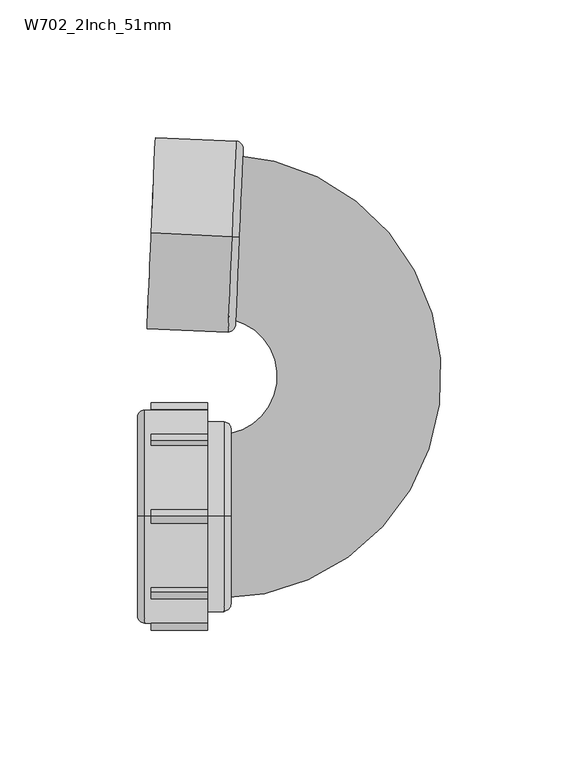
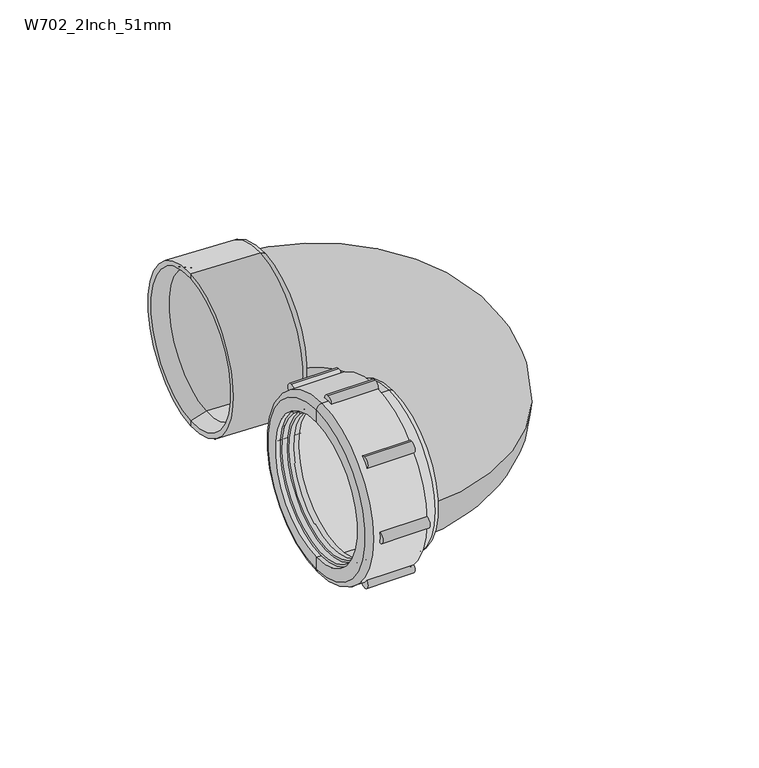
"""IFC4 building model written with IfcOpenShell, lengths in millimetres: pipe fitting geometry, Durapipe_PipeFitting_VulcatheneMechanical_UBend_W70 : W702_2Inch_51mm."""

from ifc_helpers import new_model, si_unit, point, frame, frame_2d, origin, place, context, project, spatial, polyline, circle_curve, ellipse_curve, trimmed, segment, composite_curve, outline, extrude, source, transform, mapped, element, save
from ifc_brep_helpers import plane_surface, cylinder_surface, revolved_surface, advanced_brep


def w702_2inch_51mm_fe70e554(model_context):
    return source(origin(), model_context, "Body", "SolidModel", [
        advanced_brep(
        [(-44.9837216, 101.6381441, -34.8), (-44.9837216, 101.6381441, 34.8), (-42.486101, 101.5290956, 32.3), (-42.486101, 101.5290956, -32.3), (-74.4556441, 102.924916, -34.8), (-74.4556441, 102.924916, 34.8), (-74.4556441, 102.924916, -32.65), (-74.4556441, 102.924916, 32.65), (-48.5802952, 101.7951739, -30.25), (-48.5802952, 101.7951739, 30.25), (-67.762021, 102.6326661, 30.25), (-67.762021, 102.6326661, -30.25), (-47.5812469, 101.7515545, -29.25), (-47.5812469, 101.7515545, 29.25), (-47.5812469, 101.7515545, 0.0), (-42.486101, 101.5290956, 0.0)],
        [
            (0, 1, circle_curve(frame((-44.9837216, 101.6381441, 0.0), z_axis=(0.9990482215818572, -0.043619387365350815, 0.0), x_axis=(0.0, 0.0, 1.0)), 34.8)),
            (1, 2, circle_curve(frame((-44.9837216, 101.6381441, 32.3), z_axis=(0.04361938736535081, 0.999048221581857, 0.0), x_axis=(0.0, 0.0, 1.0)), 2.5)),
            (2, 3, circle_curve(frame((-42.486101, 101.5290956, 0.0), z_axis=(-0.9990482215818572, 0.043619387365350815, 0.0), x_axis=(0.0, 0.0, 1.0)), 32.3)),
            (3, 0, circle_curve(frame((-44.9837216, 101.6381441, -32.3), z_axis=(0.04361938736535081, 0.999048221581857, 0.0), x_axis=(0.0, 0.0, -1.0)), 2.5)),
            (1, 0, circle_curve(frame((-44.9837216, 101.6381441, 0.0), z_axis=(0.9990482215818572, -0.043619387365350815, 0.0), x_axis=(0.0, 0.0, 1.0)), 34.8)),
            (3, 2, circle_curve(frame((-42.486101, 101.5290956, 0.0), z_axis=(-0.9990482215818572, 0.043619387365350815, 0.0), x_axis=(0.0, 0.0, 1.0)), 32.3)),
            (4, 5, circle_curve(frame((-74.4556441, 102.924916, 0.0), z_axis=(0.9990482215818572, -0.043619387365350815, 0.0), x_axis=(0.0, 0.0, 1.0)), 34.8)),
            (5, 1),
            (0, 4),
            (5, 4, circle_curve(frame((-74.4556441, 102.924916, 0.0), z_axis=(0.9990482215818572, -0.043619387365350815, 0.0), x_axis=(0.0, 0.0, 1.0)), 34.8)),
            (6, 7, circle_curve(frame((-74.4556441, 102.924916, 0.0), z_axis=(0.9990482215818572, -0.043619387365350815, 0.0), x_axis=(0.0, 0.0, 1.0)), 32.65)),
            (7, 5),
            (4, 6),
            (7, 6, circle_curve(frame((-74.4556441, 102.924916, 0.0), z_axis=(0.9990482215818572, -0.043619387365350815, 0.0), x_axis=(0.0, 0.0, 1.0)), 32.65)),
            (8, 9, circle_curve(frame((-48.5802952, 101.7951739, 0.0), z_axis=(0.9990482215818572, -0.043619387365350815, 0.0), x_axis=(0.0, 0.0, 1.0)), 30.25)),
            (9, 10),
            (10, 11, circle_curve(frame((-67.762021, 102.6326661, 0.0), z_axis=(-0.9990482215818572, 0.043619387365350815, 0.0), x_axis=(0.0, 0.0, 1.0)), 30.25)),
            (11, 8),
            (9, 8, circle_curve(frame((-48.5802952, 101.7951739, 0.0), z_axis=(0.9990482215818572, -0.043619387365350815, 0.0), x_axis=(0.0, 0.0, 1.0)), 30.25)),
            (11, 10, circle_curve(frame((-67.762021, 102.6326661, 0.0), z_axis=(-0.9990482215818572, 0.043619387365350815, 0.0), x_axis=(0.0, 0.0, 1.0)), 30.25)),
            (12, 13, circle_curve(frame((-47.5812469, 101.7515545, 0.0), z_axis=(0.9990482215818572, -0.043619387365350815, 0.0), x_axis=(0.0, 0.0, 1.0)), 29.25)),
            (13, 9, circle_curve(frame((-48.5802952, 101.7951739, 29.25), z_axis=(-0.04361938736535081, -0.999048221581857, 0.0), x_axis=(0.0, 0.0, 1.0)), 1.0)),
            (8, 12, circle_curve(frame((-48.5802952, 101.7951739, -29.25), z_axis=(-0.04361938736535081, -0.999048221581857, 0.0), x_axis=(0.0, 0.0, -1.0)), 1.0)),
            (13, 12, circle_curve(frame((-47.5812469, 101.7515545, 0.0), z_axis=(0.9990482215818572, -0.043619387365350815, 0.0), x_axis=(0.0, 0.0, 1.0)), 29.25)),
            (14, 13),
            (12, 14),
            (2, 15),
            (15, 3),
            (10, 7),
            (6, 11),
        ],
        [
            revolved_surface(trimmed(ellipse_curve(frame((-44.9837216, 101.6381441, 32.3), z_axis=(-0.04361938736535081, -0.999048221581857, 0.0), x_axis=(0.0, 0.0, 1.0)), 2.5, 2.5), [point((-42.486101, 101.5290956, 32.3))], [point((-44.9837216, 101.6381441, 34.8))], True, "CARTESIAN"), (-86.1574672, 103.4358286, 0.0), (-0.999048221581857, 0.04361938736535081, 0.0)),
            cylinder_surface(frame((-86.1574672, 103.4358286, 0.0), z_axis=(-0.999048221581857, 0.04361938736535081, 0.0), x_axis=(0.0, 0.0, 1.0)), 34.8),
            plane_surface(frame((-74.4556441, 102.924916, 0.0), z_axis=(-0.9990482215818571, 0.043619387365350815, 0.0), x_axis=(0.0, 0.0, 1.0))),
            revolved_surface(polyline([(-67.76202100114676, 102.63266607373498, 30.25), (-48.58029520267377, 101.79517383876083, 30.25)]), (-86.1574672, 103.4358286, 0.0), (-0.999048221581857, 0.04361938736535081, 0.0)),
            revolved_surface(trimmed(ellipse_curve(frame((-48.5802952, 101.7951739, 29.25), z_axis=(0.04361938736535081, 0.999048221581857, 0.0), x_axis=(0.0, 0.0, 1.0)), 1.0, 1.0), [point((-48.5802952, 101.7951739, 30.25))], [point((-47.5812469, 101.7515545, 29.25))], True, "CARTESIAN"), (-86.1574672, 103.4358286, 0.0), (-0.999048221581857, 0.04361938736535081, 0.0)),
            plane_surface(frame((-47.5812469, 101.7515545, 0.0), z_axis=(-0.9990482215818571, 0.043619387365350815, 0.0), x_axis=(0.0, 0.0, 1.0))),
            plane_surface(frame((-42.486101, 101.5290956, 0.0), z_axis=(0.9990482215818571, -0.043619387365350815, 0.0), x_axis=(0.0, 0.0, 1.0))),
            revolved_surface(polyline([(-74.4556441, 102.924916, 32.65), (-67.762021, 102.6326661, 30.25)]), (-86.1574672, 103.4358286, 0.0), (-0.999048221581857, 0.04361938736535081, 0.0)),
        ],
        [
            (0, [[1, 2, 3, 4]]),
            (0, [[5, -4, 6, -2]]),
            (1, [[7, 8, -1, 9]]),
            (1, [[10, -9, -5, -8]]),
            (2, [[11, 12, -7, 13]]),
            (2, [[14, -13, -10, -12]]),
            (3, [[15, 16, 17, 18]]),
            (3, [[19, -18, 20, -16]]),
            (4, [[21, 22, -15, 23]]),
            (4, [[24, -23, -19, -22]]),
            (5, [[25, -21, 26]]),
            (5, [[-26, -24, -25]]),
            (6, [[-3, 27, 28]]),
            (6, [[-6, -28, -27]]),
            (7, [[-17, 29, -11, 30]]),
            (7, [[-20, -30, -14, -29]]),
        ],
    ),
        advanced_brep(
        [(-77.1014738, -22.839549, -22.839549), (-77.1014738, 22.839549, 22.839549), (-77.1014738, 21.2839141, 21.2839141), (-77.1014738, -21.2839141, -21.2839141), (-71.5014738, -22.3445743, -22.3445743), (-71.5014738, 22.3445743, 22.3445743), (-70.1014738, -21.9203102, -21.9203102), (-70.1014738, 21.9203102, 21.9203102), (-71.5014738, 21.9203102, 21.9203102), (-71.5014738, -21.9203102, -21.9203102), (-70.1014738, -20.9303607, -20.9303607), (-70.1014738, 20.9303607, 20.9303607), (-72.4014738, -20.9303607, -20.9303607), (-72.4014738, 20.9303607, 20.9303607), (-72.4014738, -20.647518, -20.647518), (-72.4014738, 20.647518, 20.647518), (-74.6014738, -21.2839141, -21.2839141), (-74.6014738, 21.2839141, 21.2839141), (-74.6014738, 20.647518, 20.647518), (-74.6014738, -20.647518, -20.647518)],
        [
            (0, 1, circle_curve(frame((-77.1014738, 0.0, 0.0), z_axis=(-1.0, 0.0, 0.0), x_axis=(0.0, 0.7071067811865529, 0.7071067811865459)), 32.3)),
            (1, 2),
            (2, 3, circle_curve(frame((-77.1014738, 0.0, 0.0), z_axis=(1.0, 0.0, 0.0), x_axis=(0.0, 0.7071067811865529, 0.7071067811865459)), 30.1)),
            (3, 0),
            (1, 0, circle_curve(frame((-77.1014738, 0.0, 0.0), z_axis=(-1.0, 0.0, 0.0), x_axis=(0.0, 0.7071067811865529, 0.7071067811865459)), 32.3)),
            (3, 2, circle_curve(frame((-77.1014738, 0.0, 0.0), z_axis=(1.0, 0.0, 0.0), x_axis=(0.0, 0.7071067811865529, 0.7071067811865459)), 30.1)),
            (4, 5, circle_curve(frame((-71.5014738, 0.0, 0.0), z_axis=(-1.0, 0.0, 0.0), x_axis=(0.0, 0.7071067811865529, 0.7071067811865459)), 31.6)),
            (5, 1),
            (0, 4),
            (5, 4, circle_curve(frame((-71.5014738, 0.0, 0.0), z_axis=(-1.0, 0.0, 0.0), x_axis=(0.0, 0.7071067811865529, 0.7071067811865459)), 31.6)),
            (6, 7, circle_curve(frame((-70.1014738, 0.0, 0.0), z_axis=(-1.0, 0.0, 0.0), x_axis=(0.0, 0.7071067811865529, 0.7071067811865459)), 31.0)),
            (7, 8),
            (8, 9, circle_curve(frame((-71.5014738, 0.0, 0.0), z_axis=(1.0, 0.0, 0.0), x_axis=(0.0, 0.7071067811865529, 0.7071067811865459)), 31.0)),
            (9, 6),
            (7, 6, circle_curve(frame((-70.1014738, 0.0, 0.0), z_axis=(-1.0, 0.0, 0.0), x_axis=(0.0, 0.7071067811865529, 0.7071067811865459)), 31.0)),
            (9, 8, circle_curve(frame((-71.5014738, 0.0, 0.0), z_axis=(1.0, 0.0, 0.0), x_axis=(0.0, 0.7071067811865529, 0.7071067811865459)), 31.0)),
            (6, 10),
            (10, 11, circle_curve(frame((-70.1014738, 0.0, 0.0), z_axis=(-1.0, 0.0, 0.0), x_axis=(0.0, 0.7071067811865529, 0.7071067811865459)), 29.6)),
            (11, 7),
            (11, 10, circle_curve(frame((-70.1014738, 0.0, 0.0), z_axis=(-1.0, 0.0, 0.0), x_axis=(0.0, 0.7071067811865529, 0.7071067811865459)), 29.6)),
            (10, 12),
            (12, 13, circle_curve(frame((-72.4014738, 0.0, 0.0), z_axis=(-1.0, 0.0, 0.0), x_axis=(0.0, 0.7071067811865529, 0.7071067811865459)), 29.6)),
            (13, 11),
            (13, 12, circle_curve(frame((-72.4014738, 0.0, 0.0), z_axis=(-1.0, 0.0, 0.0), x_axis=(0.0, 0.7071067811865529, 0.7071067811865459)), 29.6)),
            (12, 14),
            (14, 15, circle_curve(frame((-72.4014738, 0.0, 0.0), z_axis=(-1.0, 0.0, 0.0), x_axis=(0.0, 0.7071067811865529, 0.7071067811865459)), 29.2)),
            (15, 13),
            (15, 14, circle_curve(frame((-72.4014738, 0.0, 0.0), z_axis=(-1.0, 0.0, 0.0), x_axis=(0.0, 0.7071067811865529, 0.7071067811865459)), 29.2)),
            (16, 17, circle_curve(frame((-74.6014738, 0.0, 0.0), z_axis=(-1.0, 0.0, 0.0), x_axis=(0.0, 0.7071067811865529, 0.7071067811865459)), 30.1)),
            (17, 18),
            (18, 19, circle_curve(frame((-74.6014738, 0.0, 0.0), z_axis=(1.0, 0.0, 0.0), x_axis=(0.0, 0.7071067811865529, 0.7071067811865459)), 29.2)),
            (19, 16),
            (17, 16, circle_curve(frame((-74.6014738, 0.0, 0.0), z_axis=(-1.0, 0.0, 0.0), x_axis=(0.0, 0.7071067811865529, 0.7071067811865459)), 30.1)),
            (19, 18, circle_curve(frame((-74.6014738, 0.0, 0.0), z_axis=(1.0, 0.0, 0.0), x_axis=(0.0, 0.7071067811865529, 0.7071067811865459)), 29.2)),
            (2, 17),
            (16, 3),
            (14, 19),
            (18, 15),
            (4, 9),
            (8, 5),
        ],
        [
            plane_surface(frame((-77.1014738, 0.0, 0.0), z_axis=(-1.0, 0.0, 0.0), x_axis=(0.0, 0.707106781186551, 0.707106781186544))),
            revolved_surface(polyline([(-77.1014738, 22.839549, 22.839549), (-71.5014738, 22.3445743, 22.3445743)]), (-82.1014738, 0.0, 0.0), (1.0000000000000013, 0.0, 0.0)),
            cylinder_surface(frame((-68.030818, 0.0, 0.0), z_axis=(1.0000000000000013, 0.0, 0.0), x_axis=(0.0, 0.7071067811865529, 0.7071067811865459)), 31.0),
            plane_surface(frame((-70.1014738, 0.0, 0.0), z_axis=(1.0, 0.0, 0.0), x_axis=(0.0, 0.707106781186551, 0.707106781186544))),
            revolved_surface(polyline([(-70.10147380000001, 20.930360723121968, 20.93036072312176), (-72.40147380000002, 20.930360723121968, 20.93036072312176)]), (-66.6084828, 0.0, 0.0), (1.0000000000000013, 0.0, 0.0)),
            plane_surface(frame((-72.4014738, 0.0, 0.0), z_axis=(1.0, 0.0, 0.0), x_axis=(0.0, 0.707106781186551, 0.707106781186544))),
            plane_surface(frame((-74.6014738, 0.0, 0.0), z_axis=(-1.0, 0.0, 0.0), x_axis=(0.0, 0.707106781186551, 0.707106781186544))),
            revolved_surface(polyline([(-74.60147379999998, 21.283914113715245, 21.28391411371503), (-77.10147379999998, 21.283914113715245, 21.28391411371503)]), (-82.1014738, 0.0, 0.0), (1.0000000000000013, 0.0, 0.0)),
            revolved_surface(polyline([(-72.40147379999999, 20.647518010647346, 20.64751801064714), (-74.60147379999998, 20.647518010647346, 20.64751801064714)]), (-78.6676662, 0.0, 0.0), (1.0000000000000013, 0.0, 0.0)),
            plane_surface(frame((-71.5014738, 0.0, 0.0), z_axis=(1.0, 0.0, 0.0), x_axis=(0.0, 0.707106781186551, 0.707106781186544))),
        ],
        [
            (0, [[1, 2, 3, 4]]),
            (0, [[-2, 5, -4, 6]]),
            (1, [[7, 8, -1, 9]]),
            (1, [[10, -9, -5, -8]]),
            (2, [[11, 12, 13, 14]]),
            (2, [[-12, 15, -14, 16]]),
            (3, [[-11, 17, 18, 19]]),
            (3, [[-15, -19, 20, -17]]),
            (4, [[21, 22, 23, -18]]),
            (4, [[-21, -20, -23, 24]]),
            (5, [[-22, 25, 26, 27]]),
            (5, [[-24, -27, 28, -25]]),
            (6, [[29, 30, 31, 32]]),
            (6, [[33, -32, 34, -30]]),
            (7, [[-3, 35, -29, 36]]),
            (7, [[-6, -36, -33, -35]]),
            (8, [[37, -31, 38, -26]]),
            (8, [[-37, -28, -38, -34]]),
            (9, [[-7, 39, -13, 40]]),
            (9, [[-10, -40, -16, -39]]),
        ],
    ),
        advanced_brep(
        [(-54.0014738, 0.0, -38.8), (-54.0014738, 0.0, 38.8), (-76.9014738, 0.0, 38.8), (-76.9014738, 0.0, -38.8), (-54.0014738, 0.0, -34.5), (-54.0014738, 0.0, 34.5), (-79.4014738, 0.0, -36.3), (-79.4014738, 0.0, 36.3), (-79.4014738, 0.0, 31.0), (-79.4014738, 0.0, -31.0), (-77.1014738, 0.0, -33.0), (-77.1014738, 0.0, 33.0), (-49.8014738, 0.0, 33.0), (-49.8014738, 0.0, -33.0), (-77.1014738, 0.0, -31.0), (-77.1014738, 0.0, 31.0), (-48.0014738, 0.0, -34.5), (-48.0014738, 0.0, 34.5), (-45.5014738, 0.0, -32.0), (-45.5014738, 0.0, 32.0), (-45.5014738, 0.0, 0.0), (-49.8014738, 0.0, 0.0)],
        [
            (0, 1, circle_curve(frame((-54.0014738, 0.0, 0.0), z_axis=(-1.0, 0.0, 0.0), x_axis=(0.0, 0.0, 1.0000000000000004)), 38.8)),
            (1, 2),
            (2, 3, circle_curve(frame((-76.9014738, 0.0, 0.0), z_axis=(1.0, 0.0, 0.0), x_axis=(0.0, 0.0, 1.0000000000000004)), 38.8)),
            (3, 0),
            (1, 0, circle_curve(frame((-54.0014738, 0.0, 0.0), z_axis=(-1.0, 0.0, 0.0), x_axis=(0.0, 0.0, 1.0000000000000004)), 38.8)),
            (3, 2, circle_curve(frame((-76.9014738, 0.0, 0.0), z_axis=(1.0, 0.0, 0.0), x_axis=(0.0, 0.0, 1.0000000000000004)), 38.8)),
            (4, 5, circle_curve(frame((-54.0014738, 0.0, 0.0), z_axis=(-1.0, 0.0, 0.0), x_axis=(0.0, 0.0, 1.0000000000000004)), 34.5)),
            (5, 1),
            (0, 4),
            (5, 4, circle_curve(frame((-54.0014738, 0.0, 0.0), z_axis=(-1.0, 0.0, 0.0), x_axis=(0.0, 0.0, 1.0000000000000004)), 34.5)),
            (6, 7, circle_curve(frame((-79.4014738, 0.0, 0.0), z_axis=(-1.0, 0.0, 0.0), x_axis=(0.0, 0.0, 1.0000000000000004)), 36.3)),
            (7, 8),
            (8, 9, circle_curve(frame((-79.4014738, 0.0, 0.0), z_axis=(1.0, 0.0, 0.0), x_axis=(0.0, 0.0, 1.0000000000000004)), 31.0)),
            (9, 6),
            (7, 6, circle_curve(frame((-79.4014738, 0.0, 0.0), z_axis=(-1.0, 0.0, 0.0), x_axis=(0.0, 0.0, 1.0000000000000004)), 36.3)),
            (9, 8, circle_curve(frame((-79.4014738, 0.0, 0.0), z_axis=(1.0, 0.0, 0.0), x_axis=(0.0, 0.0, 1.0000000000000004)), 31.0)),
            (2, 7, circle_curve(frame((-76.9014738, 0.0, 36.3), z_axis=(0.0, -1.0000000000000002, 0.0), x_axis=(-1.0000000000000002, 0.0, 0.0)), 2.5)),
            (6, 3, circle_curve(frame((-76.9014738, 0.0, -36.3), z_axis=(0.0, -1.0000000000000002, 0.0), x_axis=(-1.0000000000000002, 0.0, 0.0)), 2.5)),
            (10, 11, circle_curve(frame((-77.1014738, 0.0, 0.0), z_axis=(-1.0, 0.0, 0.0), x_axis=(0.0, 0.0, 1.0000000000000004)), 33.0)),
            (11, 12),
            (12, 13, circle_curve(frame((-49.8014738, 0.0, 0.0), z_axis=(1.0, 0.0, 0.0), x_axis=(0.0, 0.0, 1.0000000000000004)), 33.0)),
            (13, 10),
            (11, 10, circle_curve(frame((-77.1014738, 0.0, 0.0), z_axis=(-1.0, 0.0, 0.0), x_axis=(0.0, 0.0, 1.0000000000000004)), 33.0)),
            (13, 12, circle_curve(frame((-49.8014738, 0.0, 0.0), z_axis=(1.0, 0.0, 0.0), x_axis=(0.0, 0.0, 1.0000000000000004)), 33.0)),
            (14, 15, circle_curve(frame((-77.1014738, 0.0, 0.0), z_axis=(-1.0, 0.0, 0.0), x_axis=(0.0, 0.0, 1.0000000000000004)), 31.0)),
            (15, 11),
            (10, 14),
            (15, 14, circle_curve(frame((-77.1014738, 0.0, 0.0), z_axis=(-1.0, 0.0, 0.0), x_axis=(0.0, 0.0, 1.0000000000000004)), 31.0)),
            (8, 15),
            (14, 9),
            (16, 17, circle_curve(frame((-48.0014738, 0.0, 0.0), z_axis=(-1.0, 0.0, 0.0), x_axis=(0.0, 0.0, 1.0000000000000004)), 34.5)),
            (17, 5),
            (4, 16),
            (17, 16, circle_curve(frame((-48.0014738, 0.0, 0.0), z_axis=(-1.0, 0.0, 0.0), x_axis=(0.0, 0.0, 1.0000000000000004)), 34.5)),
            (18, 19, circle_curve(frame((-45.5014738, 0.0, 0.0), z_axis=(-1.0, 0.0, 0.0), x_axis=(0.0, 0.0, 1.0000000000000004)), 32.0)),
            (19, 17, circle_curve(frame((-48.0014738, 0.0, 32.0), z_axis=(0.0, -1.0000000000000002, 0.0), x_axis=(-1.0000000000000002, 0.0, 0.0)), 2.5)),
            (16, 18, circle_curve(frame((-48.0014738, 0.0, -32.0), z_axis=(0.0, -1.0000000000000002, 0.0), x_axis=(-1.0000000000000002, 0.0, 0.0)), 2.5)),
            (19, 18, circle_curve(frame((-45.5014738, 0.0, 0.0), z_axis=(-1.0, 0.0, 0.0), x_axis=(0.0, 0.0, 1.0000000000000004)), 32.0)),
            (20, 19),
            (18, 20),
            (12, 21),
            (21, 13),
        ],
        [
            cylinder_surface(frame((-1640.2032921, 0.0, 0.0), z_axis=(1.0000000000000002, 0.0, 0.0), x_axis=(0.0, 0.0, 1.0000000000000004)), 38.8),
            plane_surface(frame((-54.0014738, 0.0, 0.0), z_axis=(1.0, 0.0, 0.0), x_axis=(0.0, 0.0, 1.0))),
            plane_surface(frame((-79.4014738, 0.0, 0.0), z_axis=(-1.0, 0.0, 0.0), x_axis=(0.0, 0.0, 1.0))),
            revolved_surface(trimmed(ellipse_curve(frame((-76.9014738, 0.0, 36.3), z_axis=(0.0, 1.0000000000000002, 0.0), x_axis=(-1.0000000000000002, 0.0, 0.0)), 2.5, 2.5), [point((-79.4014738, 0.0, 36.3))], [point((-76.9014738, 0.0, 38.8))], True, "CARTESIAN"), (-1640.2032921, 0.0, 0.0), (1.0000000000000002, 0.0, 0.0)),
            revolved_surface(polyline([(-49.80147379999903, 0.0, 33.000000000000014), (-77.10147379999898, 0.0, 33.000000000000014)]), (-1640.2032921, 0.0, 0.0), (1.0000000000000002, 0.0, 0.0)),
            plane_surface(frame((-77.1014738, 0.0, 0.0), z_axis=(1.0, 0.0, 0.0), x_axis=(0.0, 0.0, 1.0))),
            revolved_surface(polyline([(-77.10147379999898, 0.0, 31.000000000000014), (-79.40147379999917, 0.0, 31.000000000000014)]), (-1640.2032921, 0.0, 0.0), (1.0000000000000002, 0.0, 0.0)),
            cylinder_surface(frame((-1640.2032921, 0.0, 0.0), z_axis=(1.0000000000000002, 0.0, 0.0), x_axis=(0.0, 0.0, 1.0000000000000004)), 34.5),
            revolved_surface(trimmed(ellipse_curve(frame((-48.0014738, 0.0, 32.0), z_axis=(0.0, 1.0000000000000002, 0.0), x_axis=(-1.0000000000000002, 0.0, 0.0)), 2.5, 2.5), [point((-48.0014738, 0.0, 34.5))], [point((-45.5014738, 0.0, 32.0))], True, "CARTESIAN"), (-1640.2032921, 0.0, 0.0), (1.0000000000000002, 0.0, 0.0)),
            plane_surface(frame((-45.5014738, 0.0, 0.0), z_axis=(1.0, 0.0, 0.0), x_axis=(0.0, 0.0, 1.0))),
            plane_surface(frame((-49.8014738, 0.0, 0.0), z_axis=(-1.0, 0.0, 0.0), x_axis=(0.0, 0.0, 1.0))),
        ],
        [
            (0, [[1, 2, 3, 4]]),
            (0, [[5, -4, 6, -2]]),
            (1, [[7, 8, -1, 9]]),
            (1, [[10, -9, -5, -8]]),
            (2, [[11, 12, 13, 14]]),
            (2, [[15, -14, 16, -12]]),
            (3, [[-3, 17, -11, 18]]),
            (3, [[-6, -18, -15, -17]]),
            (4, [[19, 20, 21, 22]]),
            (4, [[23, -22, 24, -20]]),
            (5, [[25, 26, -19, 27]]),
            (5, [[28, -27, -23, -26]]),
            (6, [[-13, 29, -25, 30]]),
            (6, [[-16, -30, -28, -29]]),
            (7, [[31, 32, -7, 33]]),
            (7, [[34, -33, -10, -32]]),
            (8, [[35, 36, -31, 37]]),
            (8, [[38, -37, -34, -36]]),
            (9, [[39, -35, 40]]),
            (9, [[-40, -38, -39]]),
            (10, [[-21, 41, 42]]),
            (10, [[-24, -42, -41]]),
        ],
    ),
        extrude(outline(composite_curve([segment(trimmed(circle_curve(frame_2d((38.8, 0.0)), 2.5), [point((38.8, -2.5))], [point((38.8, 2.5))], False, "CARTESIAN"), True, "CONTINUOUS"), segment(trimmed(circle_curve(frame_2d((38.8, 0.0)), 2.5), [point((38.8, 2.5))], [point((38.8, -2.5))], False, "CARTESIAN"), True, "CONTINUOUS")], self_intersect=False)), frame((-74.4014738, 0.0, 0.0), z_axis=(1.0, 0.0, 0.0), x_axis=(0.0, 1.0, 0.0)), (0.0, 0.0, 1.0), 20.4),
        extrude(outline(composite_curve([segment(trimmed(circle_curve(frame_2d((27.4357431, 27.4357431)), 2.5), [point((27.4357431, 24.9357431))], [point((27.4357431, 29.9357431))], False, "CARTESIAN"), True, "CONTINUOUS"), segment(trimmed(circle_curve(frame_2d((27.4357431, 27.4357431)), 2.5), [point((27.4357431, 29.9357431))], [point((27.4357431, 24.9357431))], False, "CARTESIAN"), True, "CONTINUOUS")], self_intersect=False)), frame((-74.4014738, 0.0, 0.0), z_axis=(1.0, 0.0, 0.0), x_axis=(0.0, 1.0, 0.0)), (0.0, 0.0, 1.0), 20.4),
        extrude(outline(composite_curve([segment(trimmed(circle_curve(frame_2d((0.0, 38.8)), 2.5), [point((0.0, 36.3))], [point((0.0, 41.3))], False, "CARTESIAN"), True, "CONTINUOUS"), segment(trimmed(circle_curve(frame_2d((0.0, 38.8)), 2.5), [point((0.0, 41.3))], [point((0.0, 36.3))], False, "CARTESIAN"), True, "CONTINUOUS")], self_intersect=False)), frame((-74.4014738, 0.0, 0.0), z_axis=(1.0, 0.0, 0.0), x_axis=(0.0, 1.0, 0.0)), (0.0, 0.0, 1.0), 20.4),
        extrude(outline(composite_curve([segment(trimmed(circle_curve(frame_2d((-27.4357431, 27.4357431)), 2.5), [point((-27.4357431, 24.9357431))], [point((-27.4357431, 29.9357431))], False, "CARTESIAN"), True, "CONTINUOUS"), segment(trimmed(circle_curve(frame_2d((-27.4357431, 27.4357431)), 2.5), [point((-27.4357431, 29.9357431))], [point((-27.4357431, 24.9357431))], False, "CARTESIAN"), True, "CONTINUOUS")], self_intersect=False)), frame((-74.4014738, 0.0, 0.0), z_axis=(1.0, 0.0, 0.0), x_axis=(0.0, 1.0, 0.0)), (0.0, 0.0, 1.0), 20.4),
        extrude(outline(composite_curve([segment(trimmed(circle_curve(frame_2d((-38.8, 0.0)), 2.5), [point((-38.8, -2.5))], [point((-38.8, 2.5))], False, "CARTESIAN"), True, "CONTINUOUS"), segment(trimmed(circle_curve(frame_2d((-38.8, 0.0)), 2.5), [point((-38.8, 2.5))], [point((-38.8, -2.5))], False, "CARTESIAN"), True, "CONTINUOUS")], self_intersect=False)), frame((-74.4014738, 0.0, 0.0), z_axis=(1.0, 0.0, 0.0), x_axis=(0.0, 1.0, 0.0)), (0.0, 0.0, 1.0), 20.4),
        extrude(outline(composite_curve([segment(trimmed(circle_curve(frame_2d((-27.4357431, -27.4357431)), 2.5), [point((-27.4357431, -29.9357431))], [point((-27.4357431, -24.9357431))], False, "CARTESIAN"), True, "CONTINUOUS"), segment(trimmed(circle_curve(frame_2d((-27.4357431, -27.4357431)), 2.5), [point((-27.4357431, -24.9357431))], [point((-27.4357431, -29.9357431))], False, "CARTESIAN"), True, "CONTINUOUS")], self_intersect=False)), frame((-74.4014738, 0.0, 0.0), z_axis=(1.0, 0.0, 0.0), x_axis=(0.0, 1.0, 0.0)), (0.0, 0.0, 1.0), 20.4),
        extrude(outline(composite_curve([segment(trimmed(circle_curve(frame_2d((0.0, -38.8)), 2.5), [point((0.0, -41.3))], [point((0.0, -36.3))], False, "CARTESIAN"), True, "CONTINUOUS"), segment(trimmed(circle_curve(frame_2d((0.0, -38.8)), 2.5), [point((0.0, -36.3))], [point((0.0, -41.3))], False, "CARTESIAN"), True, "CONTINUOUS")], self_intersect=False)), frame((-74.4014738, 0.0, 0.0), z_axis=(1.0, 0.0, 0.0), x_axis=(0.0, 1.0, 0.0)), (0.0, 0.0, 1.0), 20.4),
        extrude(outline(composite_curve([segment(trimmed(circle_curve(frame_2d((27.4357431, -27.4357431)), 2.5), [point((27.4357431, -29.9357431))], [point((27.4357431, -24.9357431))], False, "CARTESIAN"), True, "CONTINUOUS"), segment(trimmed(circle_curve(frame_2d((27.4357431, -27.4357431)), 2.5), [point((27.4357431, -24.9357431))], [point((27.4357431, -29.9357431))], False, "CARTESIAN"), True, "CONTINUOUS")], self_intersect=False)), frame((-74.4014738, 0.0, 0.0), z_axis=(1.0, 0.0, 0.0), x_axis=(0.0, 1.0, 0.0)), (0.0, 0.0, 1.0), 20.4),
        advanced_brep(
        [(-49.8014738, -29.75, 0.0), (-49.8014738, 29.75, 0.0), (-46.2835702, 131.4732391, 0.0), (-48.8789237, 72.0298699, 0.0)],
        [
            (0, 1, circle_curve(frame((-49.8014738, 0.0, 0.0), z_axis=(-1.0, 0.0, 0.0), x_axis=(0.0, 1.0, 0.0)), 29.75)),
            (1, 0, circle_curve(frame((-49.8014738, 0.0, 0.0), z_axis=(-1.0, 0.0, 0.0), x_axis=(0.0, 1.0, 0.0)), 29.75)),
            (2, 3, circle_curve(frame((-47.5812469, 101.7515545, 0.0), z_axis=(-0.9990482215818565, 0.0436193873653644, 0.0), x_axis=(-0.0436193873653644, -0.9990482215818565, 0.0)), 29.75)),
            (3, 2, circle_curve(frame((-47.5812469, 101.7515545, 0.0), z_axis=(-0.9990482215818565, 0.0436193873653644, 0.0), x_axis=(-0.0436193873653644, -0.9990482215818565, 0.0)), 29.75)),
            (3, 1, circle_curve(frame((-49.8014738, 50.9, 0.0), z_axis=(0.0, 0.0, -1.0), x_axis=(0.0, -1.0, 0.0)), 21.15)),
            (0, 2, circle_curve(frame((-49.8014738, 50.9, 0.0), z_axis=(0.0, 0.0, 1.0), x_axis=(0.0, -1.0, 0.0)), 80.65)),
        ],
        [
            plane_surface(frame((-49.8014738, 0.0, 0.0), z_axis=(-1.0, 0.0, 0.0), x_axis=(0.0, 0.0, 1.0))),
            plane_surface(frame((-47.5812469, 101.7515545, 0.0), z_axis=(-0.9990482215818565, 0.04361938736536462, 0.0), x_axis=(0.0, 0.0, 1.0))),
            revolved_surface(trimmed(ellipse_curve(frame((-49.8014738, 0.0, 0.0), z_axis=(-1.0, 0.0, 0.0), x_axis=(0.0, 1.0, 0.0)), 29.75, 29.75), [point((-49.8014738, -29.75, 0.0))], [point((-49.8014738, 29.75, 0.0))], True, "CARTESIAN"), (-49.8014738, 50.9, 0.0), (0.0, 0.0, 1.0)),
            revolved_surface(trimmed(ellipse_curve(frame((-49.8014738, 0.0, 0.0), z_axis=(-1.0, 0.0, 0.0), x_axis=(0.0, 1.0, 0.0)), 29.75, 29.75), [point((-49.8014738, 29.75, 0.0))], [point((-49.8014738, -29.75, 0.0))], True, "CARTESIAN"), (-49.8014738, 50.9, 0.0), (0.0, 0.0, 1.0)),
        ],
        [
            (0, [[1, 2]]),
            (1, [[3, 4]]),
            (2, [[5, -1, 6, -4]]),
            (3, [[-6, -2, -5, -3]]),
        ],
    ),
    ])


if __name__ == "__main__":
    model = new_model("IFC4")
    model_context = context("Model", 3, world=origin())
    ifc_project = project(units=[si_unit("LENGTHUNIT", "METRE", prefix="MILLI")], contexts=[model_context])
    site = spatial("IfcSite", under=ifc_project)
    building = spatial("IfcBuilding", under=site)
    placement = place(None, origin())
    w702_2inch_51mm_shape = w702_2inch_51mm_fe70e554(model_context)
    element("IfcPipeFitting", 1, ObjectType="Durapipe_PipeFitting_VulcatheneMechanical_UBend_W70 : W702_2Inch_51mm", at=placement, inside=building, context=model_context, shape_type="MappedRepresentation", body=[
        mapped(w702_2inch_51mm_shape, transform((0.0, 0.0, 0.0), x_axis=(1.0, 0.0, 0.0), y_axis=(0.0, 1.0, 0.0), z_axis=(0.0, 0.0, 1.0))),
    ])
    save(model, "model.ifc")
